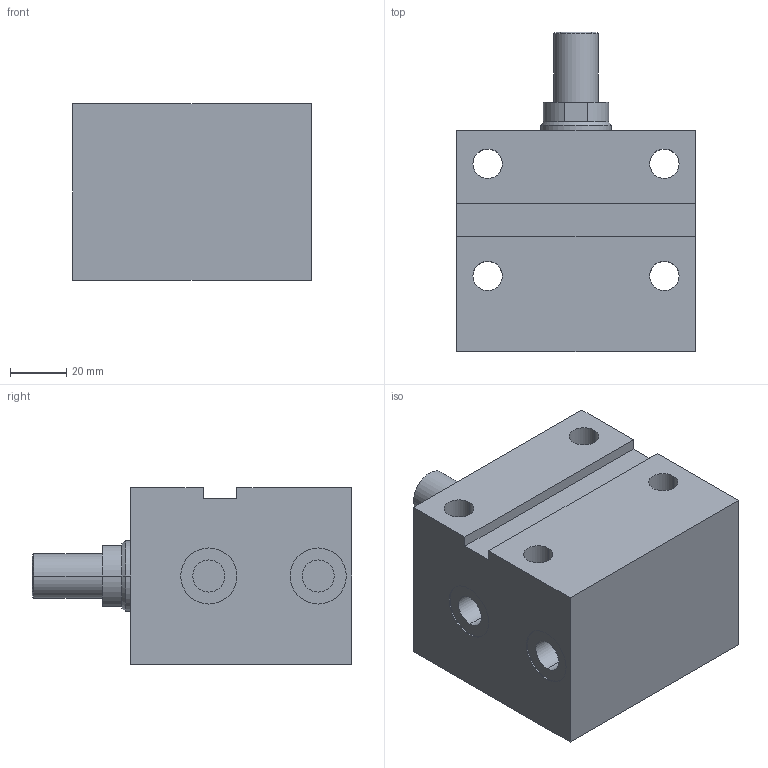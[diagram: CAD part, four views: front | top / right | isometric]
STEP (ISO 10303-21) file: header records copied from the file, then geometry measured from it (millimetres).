
FILE_DESCRIPTION (( 'STEP AP203' ), '1' );
FILE_NAME ('GERMA_Blockzylinder_601-040-025-A.STEP', '2016-04-06T15:54:02', ( '' ), ( '' ), 'SwSTEP 2.0', 'SolidWorks 2015', '' );
FILE_SCHEMA (( 'CONFIG_CONTROL_DESIGN' ));
Length unit declared in the file: millimetre
Products named in the file (3): GERMA_Blockzylinder_601-040-025-A; GH-600-040_GH-601-040-025; Kolben 60x-040_Kolben DU.40-Hub25-AG
Assembly tree (2 placements, depth 2):
  GERMA_Blockzylinder_601-040-025-A
    GH-600-040_GH-601-040-025
    Kolben 60x-040_Kolben DU.40-Hub25-AG
Bounding box: 85 x 114 x 63 mm (x, y, z)
Volume: 383897.3 mm3; surface area: 62862.7 mm2
Topology: 2 solids, 2 shells, 73 faces, 162 edges, 101 vertices
Faces by surface type: cylinder 35, plane 26, cone 12
Entity records: 2330 total; most frequent: DIRECTION 395, CARTESIAN_POINT 337, ORIENTED_EDGE 316, AXIS2_PLACEMENT_3D 159, EDGE_CURVE 158, VERTEX_POINT 101, EDGE_LOOP 93, CIRCLE 81
